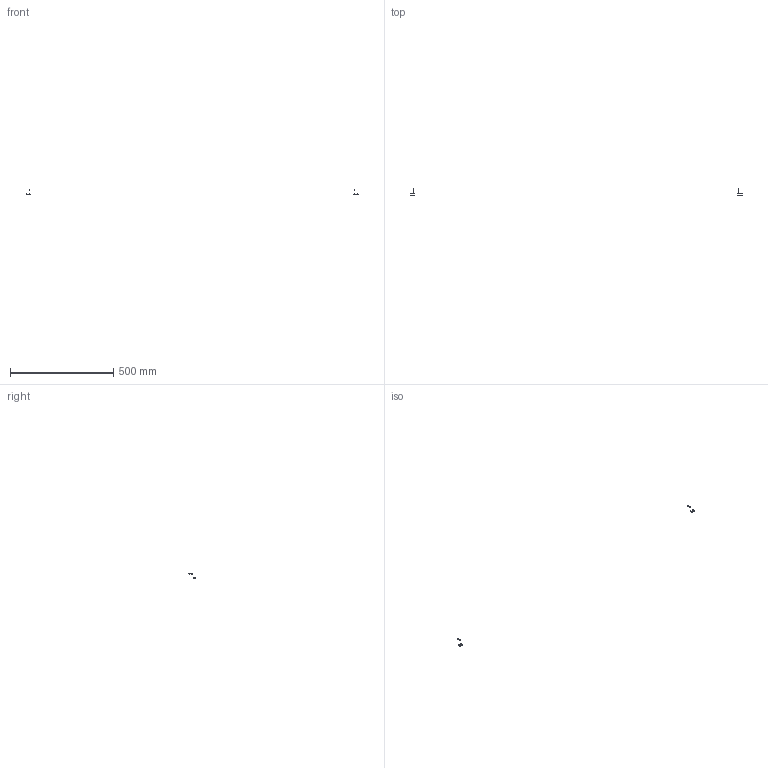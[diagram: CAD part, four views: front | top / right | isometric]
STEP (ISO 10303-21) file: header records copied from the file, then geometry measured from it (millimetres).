
FILE_DESCRIPTION(/* description */ (''),/* implementation_level */ '2;1');
FILE_NAME(/* name */ '4.frame-door#4.8#GTS3',/* time_stamp */ '2014-12-01T20:13:06+01:00',/* author */ (''),/* organization */ (''),/* preprocessor_version */ 'ST-DEVELOPER v14',/* originating_system */ '',/* authorisation */ '');
FILE_SCHEMA (('AUTOMOTIVE_DESIGN'));
Length unit declared in the file: millimetre
Products named in the file (2): Document; washer Schnorr-like, lock, M3
Assembly tree (6 placements, depth 2):
  Document
    washer Schnorr-like, lock, M3  x6
Bounding box: 1607.22 x 30.24 x 28.5 mm (x, y, z)
Surface area: 528.2 mm2 (no closed solid volume)
Topology: 0 solids, 96 shells, 96 faces, 384 edges, 384 vertices
Faces by surface type: bspline 96
Entity records: 5031 total; most frequent: CARTESIAN_POINT 2473, B_SPLINE_CURVE_WITH_KNOTS 336, ORIENTED_EDGE 224, PCURVE 224, DEFINITIONAL_REPRESENTATION 224, SURFACE_CURVE 224, EDGE_CURVE 224, VERTEX_POINT 224
